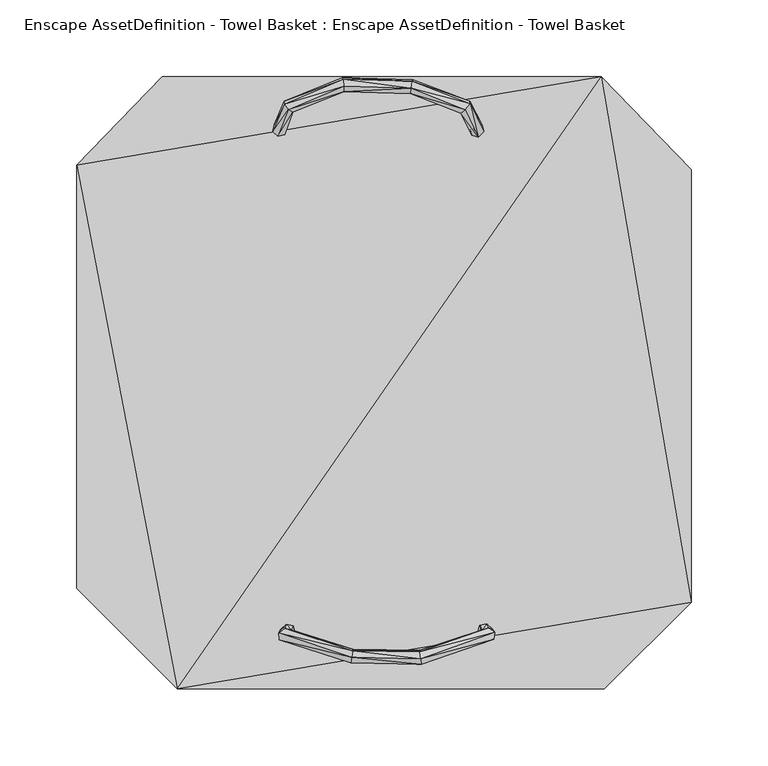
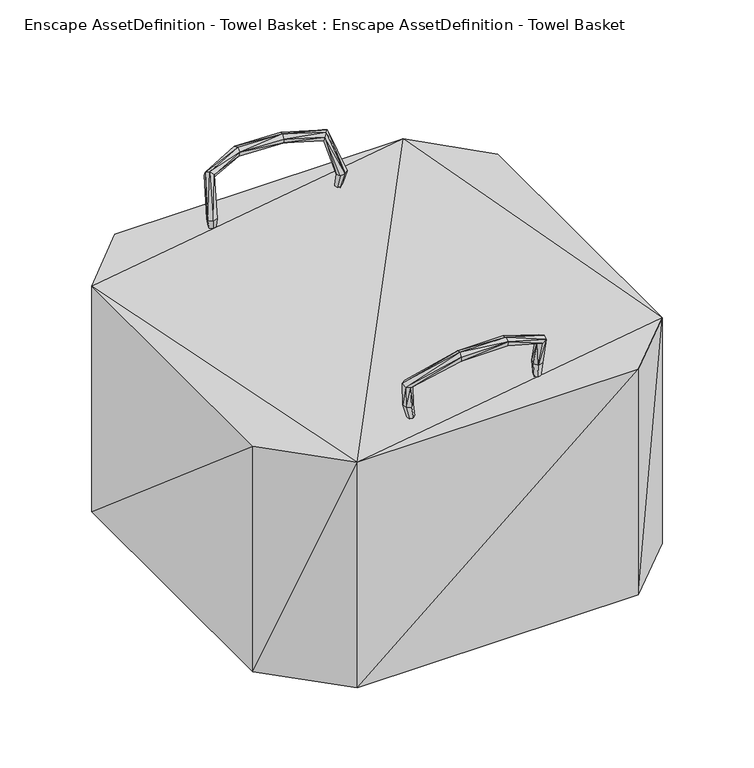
"""IFC4 building model written with IfcOpenShell, lengths in millimetres: geographic element geometry, Enscape AssetDefinition - Towel Basket : Enscape AssetDefinition - Towel Basket."""

from ifc_helpers import new_model, si_unit, origin, place, context, project, spatial, faceted_brep, source, transform, mapped, element, save


def enscape_assetdefinition_towel_basket_enscape_assetdefinition_32777967(model_context):
    return source(origin(), model_context, "Body", "Brep", [
        faceted_brep([(143.7320411, -199.0086734, 0.0), (-134.731397, -199.0086734, 0.0), (-200.215891, -133.5225701, 0.0), (143.7320411, -199.0086734, 236.2840176), (-134.731397, -199.0086734, 236.2840176), (200.3278136, -142.4128711, 236.2840176), (200.3278136, -142.4128711, 0.0), (200.3278136, 139.6802217, 0.0), (-200.215891, 142.6415294, 236.2840176), (-200.215891, -133.5225701, 236.2840176), (141.6133791, 200.3278136, 236.2840176), (200.3278136, 139.6802217, 236.2840176), (141.6133791, 200.3278136, 0.0), (-144.4627792, 200.3278136, 0.0), (-144.4627792, 200.3278136, 236.2840176), (-200.215891, 142.6415294, 0.0)], [[[0, 1, 2]], [[3, 1, 0]], [[1, 3, 4]], [[4, 2, 1]], [[5, 0, 6]], [[0, 5, 3]], [[0, 7, 6]], [[0, 2, 7]], [[5, 4, 3]], [[8, 9, 4]], [[2, 4, 9]], [[10, 4, 5]], [[8, 4, 10]], [[6, 11, 5]], [[10, 5, 11]], [[11, 6, 7]], [[7, 10, 11]], [[10, 7, 12]], [[7, 13, 12]], [[7, 2, 13]], [[12, 14, 10]], [[8, 10, 14]], [[14, 12, 13]], [[8, 13, 15]], [[13, 8, 14]], [[13, 2, 15]], [[15, 9, 8]], [[9, 15, 2]]]),
        faceted_brep([(18.5017623, 194.8081553, 280.0304294), (49.9536358, 178.3386916, 279.5747221), (17.7422464, 190.2238876, 281.4503312), (52.8829657, 182.203427, 278.5145938), (50.123129, 176.664561, 283.9639187), (55.8682531, 166.4391011, 249.6258765), (53.1260073, 178.8263768, 287.2689962), (17.3393041, 189.2293245, 286.0809565), (61.6373606, 161.0281616, 251.3463795), (57.0898727, 162.0531082, 250.5628765), (53.0892313, 173.2219607, 199.7921616), (59.3204424, 169.8241383, 249.5139539), (65.1103407, 164.3140763, 251.2104809), (56.1081022, 182.6255471, 286.2488627), (17.7294575, 192.8254366, 289.2517149), (56.0329519, 184.3316555, 281.8836272), (18.5145531, 197.4192709, 287.7966762), (64.0166402, 168.7256396, 250.3198385), (18.8823175, 198.4074414, 283.2027972), (-27.038699, 199.5651126, 283.7224603), (-26.5430175, 198.7480372, 288.3242965), (-26.9987248, 195.8634853, 280.6540132), (-61.8068539, 182.3921055, 277.1042883), (-64.9200603, 184.2357218, 279.9105048), (-65.1087388, 182.4880391, 284.2645347), (-26.0521304, 194.178164, 289.9473011), (-66.7221099, 170.3661978, 245.8714843), (-71.3895261, 169.0870225, 245.7419634), (-59.0102449, 178.7832081, 278.6760926), (-61.9715489, 174.7905612, 207.7326924), (-63.3962378, 167.067498, 246.6453761), (-72.591953, 164.5954996, 246.344775), (-69.1941306, 161.3991261, 247.1378744), (-64.6658242, 162.599951, 247.3137677), (-26.4950488, 191.333577, 282.200247), (-59.2692792, 177.0707071, 283.1068635), (-62.2529685, 178.9303124, 285.8890593), (-26.0425378, 190.4669404, 286.8900597)], [[[0, 1, 2]], [[1, 0, 3]], [[4, 2, 1]], [[3, 5, 1]], [[5, 4, 1]], [[6, 7, 4]], [[2, 4, 7]], [[4, 8, 6]], [[8, 4, 9]], [[4, 5, 9]], [[10, 5, 11]], [[5, 10, 9]], [[5, 3, 11]], [[10, 8, 9]], [[10, 12, 8]], [[8, 13, 6]], [[13, 8, 12]], [[13, 14, 6]], [[7, 6, 14]], [[15, 16, 13]], [[14, 13, 16]], [[12, 15, 13]], [[10, 17, 12]], [[15, 12, 17]], [[10, 11, 17]], [[3, 17, 11]], [[17, 3, 15]], [[3, 18, 15]], [[16, 15, 18]], [[19, 16, 18]], [[16, 19, 20]], [[20, 14, 16]], [[18, 3, 0]], [[0, 19, 18]], [[19, 0, 21]], [[19, 22, 23]], [[22, 19, 21]], [[23, 20, 19]], [[20, 23, 24]], [[24, 25, 20]], [[14, 20, 25]], [[26, 23, 22]], [[23, 26, 27]], [[27, 24, 23]], [[21, 28, 22]], [[28, 26, 22]], [[29, 26, 30]], [[29, 27, 26]], [[26, 28, 30]], [[29, 31, 27]], [[24, 27, 31]], [[29, 32, 31]], [[32, 29, 33]], [[29, 30, 33]], [[28, 33, 30]], [[28, 21, 34]], [[34, 35, 28]], [[33, 28, 35]], [[35, 32, 33]], [[36, 31, 32]], [[32, 35, 36]], [[31, 36, 24]], [[25, 24, 36]], [[37, 36, 35]], [[36, 37, 25]], [[35, 34, 37]], [[34, 0, 2]], [[0, 34, 21]], [[2, 37, 34]], [[37, 2, 7]], [[14, 37, 7]], [[37, 14, 25]]]),
        faceted_brep([(-21.1912412, -181.1960638, 291.6150093), (-59.8097332, -164.8129374, 270.172745), (-20.4796959, -176.717326, 290.0000513), (-63.5881126, -168.0636704, 270.452559), (-60.4845025, -160.4477465, 271.7013657), (-58.0252744, -162.3249352, 248.5113889), (-64.7793561, -159.3044698, 273.5002041), (-20.0799517, -173.0988473, 293.1260467), (-63.7576059, -156.947583, 249.9440759), (-59.2133105, -157.9517275, 249.4164258), (-55.4445237, -168.7080562, 199.7921616), (-61.503049, -165.7131761, 248.1356412), (-67.2593638, -160.2382809, 249.5779097), (-68.6009079, -162.4272764, 273.7864256), (-20.393353, -173.9622802, 297.8398204), (-68.0812448, -166.8228507, 272.2657919), (-21.0857075, -178.4410328, 299.4323969), (-66.1960468, -164.6322608, 248.674497), (-21.4822553, -182.0579022, 296.3320017), (24.456352, -182.8957796, 296.8196869), (24.0006428, -179.419592, 300.0000417), (24.3204404, -181.826055, 292.1362817), (67.0930743, -168.0444926, 271.3703811), (71.5142414, -166.6805595, 273.1260657), (72.1122622, -162.2082144, 274.6530771), (23.4138202, -174.8273373, 298.5242009), (64.5506978, -165.1982963, 247.5855947), (69.2213103, -164.1509682, 248.0524778), (63.4585992, -164.8449153, 271.2040544), (59.6178547, -170.2766567, 207.7326924), (61.250411, -161.7860943, 248.0892688), (70.4541206, -159.7489864, 248.9607036), (67.0850724, -156.395942, 249.4244128), (62.5503808, -157.3873013, 249.0214705), (23.7671938, -177.2689819, 290.6332612), (64.1605482, -160.3869796, 272.7630734), (68.3850497, -159.1030061, 274.4468153), (23.3162809, -173.7496257, 293.8407958)], [[[0, 1, 2]], [[1, 0, 3]], [[4, 2, 1]], [[3, 5, 1]], [[5, 4, 1]], [[6, 7, 4]], [[2, 4, 7]], [[4, 8, 6]], [[8, 4, 9]], [[4, 5, 9]], [[10, 5, 11]], [[5, 10, 9]], [[5, 3, 11]], [[10, 8, 9]], [[10, 12, 8]], [[8, 13, 6]], [[13, 8, 12]], [[13, 14, 6]], [[7, 6, 14]], [[15, 16, 13]], [[14, 13, 16]], [[12, 15, 13]], [[10, 17, 12]], [[15, 12, 17]], [[10, 11, 17]], [[3, 17, 11]], [[17, 3, 15]], [[3, 18, 15]], [[16, 15, 18]], [[19, 16, 18]], [[16, 19, 20]], [[20, 14, 16]], [[18, 3, 0]], [[0, 19, 18]], [[19, 0, 21]], [[19, 22, 23]], [[22, 19, 21]], [[23, 20, 19]], [[20, 23, 24]], [[24, 25, 20]], [[14, 20, 25]], [[26, 23, 22]], [[23, 26, 27]], [[27, 24, 23]], [[21, 28, 22]], [[28, 26, 22]], [[29, 26, 30]], [[29, 27, 26]], [[26, 28, 30]], [[29, 31, 27]], [[24, 27, 31]], [[29, 32, 31]], [[32, 29, 33]], [[29, 30, 33]], [[28, 33, 30]], [[28, 21, 34]], [[34, 35, 28]], [[33, 28, 35]], [[35, 32, 33]], [[36, 31, 32]], [[32, 35, 36]], [[31, 36, 24]], [[25, 24, 36]], [[37, 36, 35]], [[36, 37, 25]], [[35, 34, 37]], [[34, 0, 2]], [[0, 34, 21]], [[2, 37, 34]], [[37, 2, 7]], [[14, 37, 7]], [[37, 14, 25]]]),
    ])


if __name__ == "__main__":
    model = new_model("IFC4")
    model_context = context("Model", 3, world=origin())
    ifc_project = project(units=[si_unit("LENGTHUNIT", "METRE", prefix="MILLI")], contexts=[model_context])
    site = spatial("IfcSite", under=ifc_project)
    building = spatial("IfcBuilding", under=site)
    placement = place(None, origin())
    enscape_assetdefinition_towel_basket_enscape_assetdefinition_shape = enscape_assetdefinition_towel_basket_enscape_assetdefinition_32777967(model_context)
    element("IfcGeographicElement", 1, ObjectType="Enscape AssetDefinition - Towel Basket : Enscape AssetDefinition - Towel Basket", at=placement, inside=building, context=model_context, shape_type="MappedRepresentation", body=[
        mapped(enscape_assetdefinition_towel_basket_enscape_assetdefinition_shape, transform((0.0, 0.0, 0.0), x_axis=(1.0, 0.0, 0.0), y_axis=(0.0, 1.0, 0.0), z_axis=(0.0, 0.0, 1.0))),
    ])
    save(model, "model.ifc")
